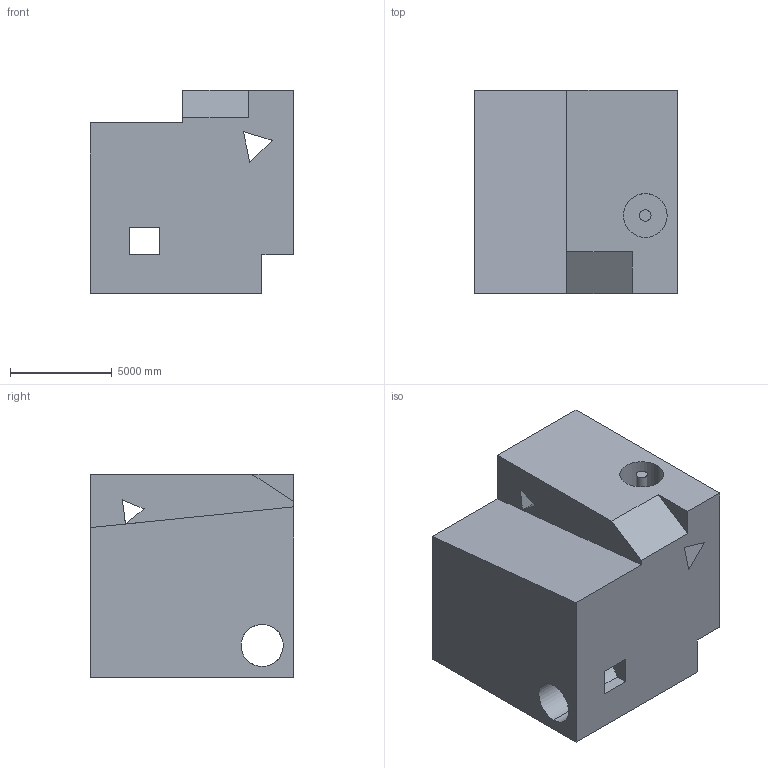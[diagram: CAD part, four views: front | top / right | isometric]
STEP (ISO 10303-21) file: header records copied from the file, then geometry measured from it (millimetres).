
FILE_DESCRIPTION (( 'STEP AP203' ), '1' );
FILE_NAME ('382.STEP', '2022-09-07T15:28:06', ( 'user' ), ( '' ), 'SwSTEP 2.0', 'SolidWorks 2021', '' );
FILE_SCHEMA (( 'CONFIG_CONTROL_DESIGN' ));
Length unit declared in the file: centimetre
Products named in the file (1): 382
Bounding box: 10000 x 10000 x 10000 mm (x, y, z)
Volume: 770764948415.1 mm3; surface area: 772972348.6 mm2
Topology: 1 solids, 1 shells, 43 faces, 130 edges, 86 vertices
Faces by surface type: plane 37, cylinder 6
Entity records: 1545 total; most frequent: CARTESIAN_POINT 266, ORIENTED_EDGE 260, DIRECTION 232, EDGE_CURVE 130, VECTOR 112, LINE 112, VERTEX_POINT 86, AXIS2_PLACEMENT_3D 60
